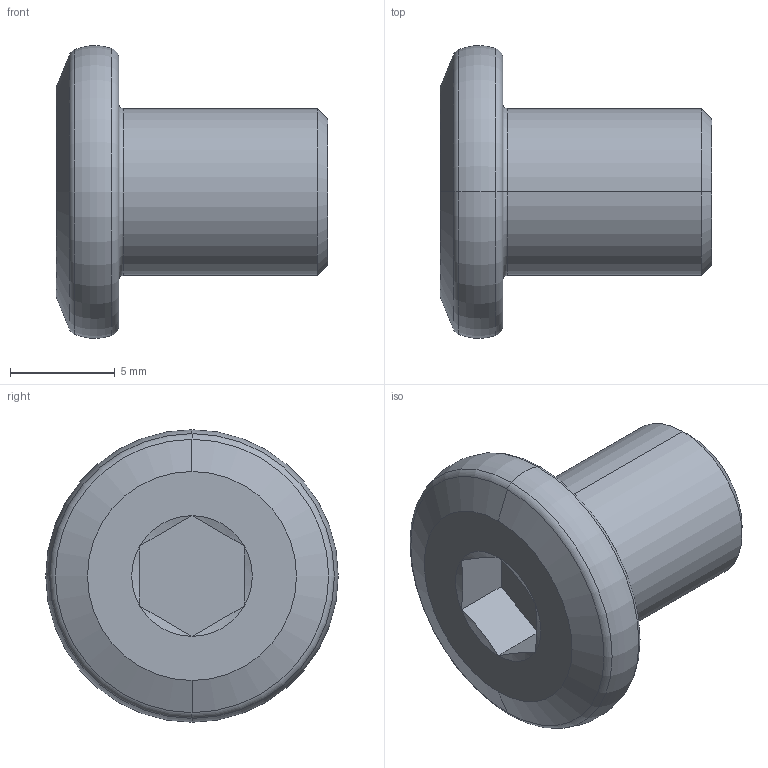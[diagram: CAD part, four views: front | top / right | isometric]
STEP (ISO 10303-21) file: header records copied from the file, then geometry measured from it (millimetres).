
FILE_DESCRIPTION (( 'STEP AP203' ), '1' );
FILE_NAME ('LGD-304D-M8x10.STEP', '2026-08-13T08:15:59', ( '' ), ( '' ), 'SwSTEP 2.0', 'SolidWorks 2020', '' );
FILE_SCHEMA (( 'CONFIG_CONTROL_DESIGN' ));
Length unit declared in the file: millimetre
Products named in the file (1): LGD-304D-M8x10
Bounding box: 13 x 14 x 14 mm (x, y, z)
Volume: 861.1 mm3; surface area: 675.4 mm2
Topology: 1 solids, 1 shells, 30 faces, 56 edges, 30 vertices
Faces by surface type: cone 10, plane 10, torus 8, cylinder 2
Entity records: 827 total; most frequent: DIRECTION 144, CARTESIAN_POINT 143, ORIENTED_EDGE 112, AXIS2_PLACEMENT_3D 63, EDGE_CURVE 56, CIRCLE 32, EDGE_LOOP 32, FACE_OUTER_BOUND 30
